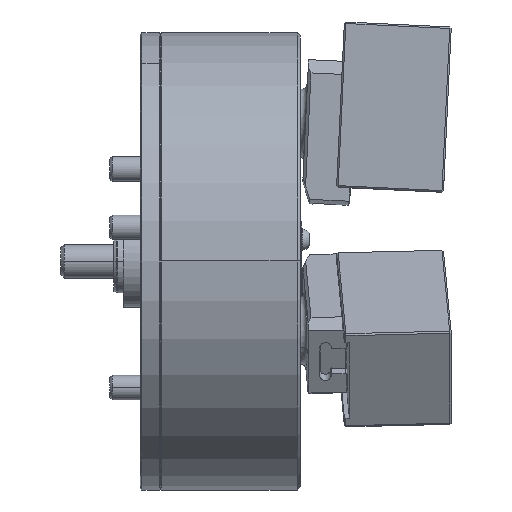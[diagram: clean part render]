
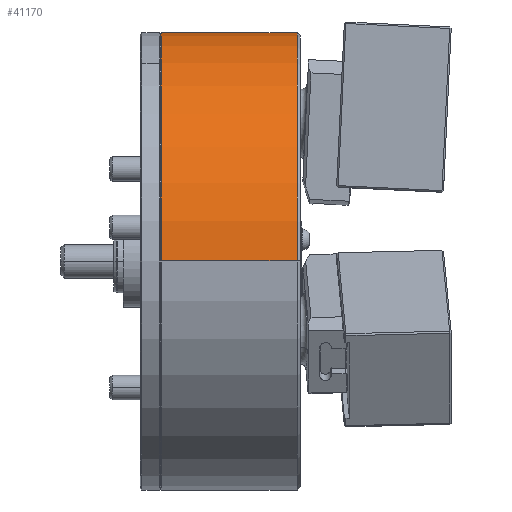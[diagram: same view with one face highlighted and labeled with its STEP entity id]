
A CAD part, top view. The second image highlights one B-rep face of the part: STEP entity #41170.
In plain terms, the highlighted cylindrical face has radius 150 mm (diameter 300 mm), a partial arc.
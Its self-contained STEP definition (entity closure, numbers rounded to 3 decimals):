
#1122 = AXIS2_PLACEMENT_3D ( 'NONE', #1682, #34511, #30430 ) ;
#1322 = EDGE_CURVE ( 'NONE', #39209, #36800, #36054, .T. ) ;
#1682 = CARTESIAN_POINT ( 'NONE',  ( -2., 0., 0. ) ) ;
#1697 = EDGE_CURVE ( 'NONE', #21742, #36800, #43706, .T. ) ;
#2252 = ORIENTED_EDGE ( 'NONE', *, *, #1322, .F. ) ;
#2876 = VECTOR ( 'NONE', #21271, 1000. ) ;
#4488 = VERTEX_POINT ( 'NONE', #15140 ) ;
#6568 = CARTESIAN_POINT ( 'NONE',  ( 63.843, 0., 0. ) ) ;
#6784 = CARTESIAN_POINT ( 'NONE',  ( 63.843, 0., -150. ) ) ;
#6847 = AXIS2_PLACEMENT_3D ( 'NONE', #6568, #21056, #43667 ) ;
#10609 = CYLINDRICAL_SURFACE ( 'NONE', #6847, 150. ) ;
#10876 = DIRECTION ( 'NONE',  ( 1., 0., 0. ) ) ;
#12302 = CARTESIAN_POINT ( 'NONE',  ( -2., 0., 150. ) ) ;
#14361 = ORIENTED_EDGE ( 'NONE', *, *, #24618, .T. ) ;
#15140 = CARTESIAN_POINT ( 'NONE',  ( -91.2, 0., -150. ) ) ;
#17277 = CIRCLE ( 'NONE', #23334, 150. ) ;
#18237 = CARTESIAN_POINT ( 'NONE',  ( 63.843, 0., 150. ) ) ;
#20016 = EDGE_LOOP ( 'NONE', ( #14361, #22391, #2252, #31902 ) ) ;
#21056 = DIRECTION ( 'NONE',  ( 1., 0., 0. ) ) ;
#21271 = DIRECTION ( 'NONE',  ( 1., 0., 0. ) ) ;
#21742 = VERTEX_POINT ( 'NONE', #30462 ) ;
#22391 = ORIENTED_EDGE ( 'NONE', *, *, #1697, .T. ) ;
#23334 = AXIS2_PLACEMENT_3D ( 'NONE', #46333, #28218, #42754 ) ;
#24618 = EDGE_CURVE ( 'NONE', #4488, #21742, #17277, .T. ) ;
#24903 = EDGE_CURVE ( 'NONE', #4488, #39209, #39339, .T. ) ;
#26993 = VECTOR ( 'NONE', #10876, 1000. ) ;
#28218 = DIRECTION ( 'NONE',  ( 1., 0., 0. ) ) ;
#30430 = DIRECTION ( 'NONE',  ( 0., 0., -1. ) ) ;
#30462 = CARTESIAN_POINT ( 'NONE',  ( -91.2, 0., 150. ) ) ;
#31902 = ORIENTED_EDGE ( 'NONE', *, *, #24903, .F. ) ;
#32049 = CARTESIAN_POINT ( 'NONE',  ( -2., 0., -150. ) ) ;
#34511 = DIRECTION ( 'NONE',  ( 1., 0., 0. ) ) ;
#36054 = CIRCLE ( 'NONE', #1122, 150. ) ;
#36800 = VERTEX_POINT ( 'NONE', #12302 ) ;
#39121 = FACE_OUTER_BOUND ( 'NONE', #20016, .T. ) ;
#39209 = VERTEX_POINT ( 'NONE', #32049 ) ;
#39339 = LINE ( 'NONE', #6784, #2876 ) ;
#41170 = ADVANCED_FACE ( 'NONE', ( #39121 ), #10609, .T. ) ;
#42754 = DIRECTION ( 'NONE',  ( 0., 0., -1. ) ) ;
#43667 = DIRECTION ( 'NONE',  ( 0., 0., -1. ) ) ;
#43706 = LINE ( 'NONE', #18237, #26993 ) ;
#46333 = CARTESIAN_POINT ( 'NONE',  ( -91.2, 0., 0. ) ) ;
